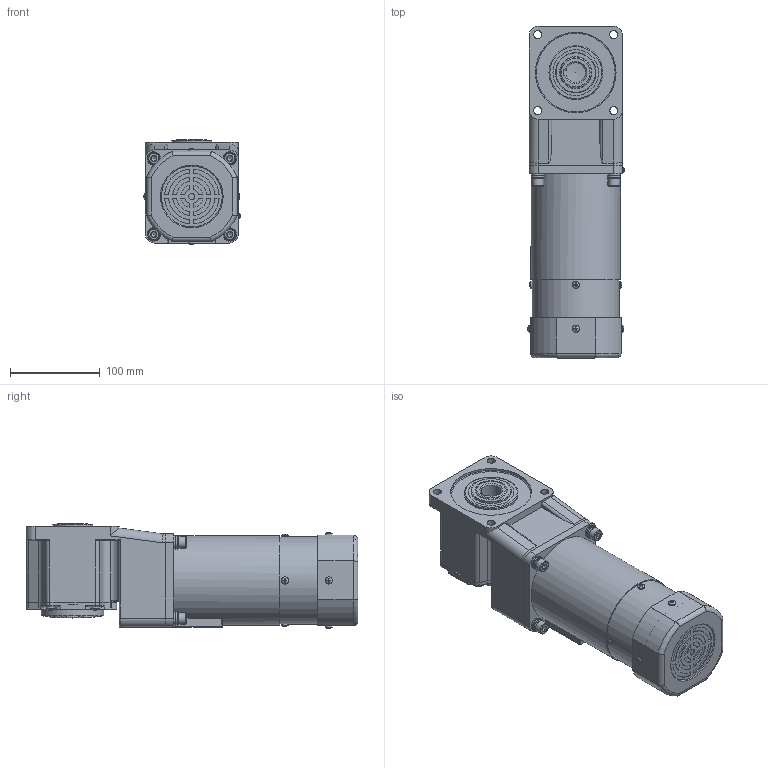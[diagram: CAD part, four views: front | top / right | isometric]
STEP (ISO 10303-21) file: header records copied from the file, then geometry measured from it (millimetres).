
FILE_DESCRIPTION(/* description */ (''),/* implementation_level */ '2;1');
FILE_NAME(/* name */ '100+直角中空-刹车调速风叶-140W.stp',/* time_stamp */ '2022-09-27T13:04:43+08:00',/* author */ (''),/* organization */ (''),/* preprocessor_version */ 'ST-DEVELOPER v16.7',/* originating_system */ 'SIEMENS PLM Software NX 1899',/* authorisation */ '');
FILE_SCHEMA (('AP203_CONFIGURATION_CONTROLLED_3D_DESIGN_OF_MECHANICAL_PARTS_AND_ASSEMBLIES_MIM_LF { 1 0 10303 403 2 1 2}'));
Length unit declared in the file: millimetre
Products named in the file (1): yf1835C809DDug8a
Bounding box: 107.66 x 370.5 x 117.08 mm (x, y, z)
Volume: 3160806 mm3; surface area: 244566.7 mm2
Topology: 15 solids, 15 shells, 875 faces, 2132 edges, 1346 vertices
Faces by surface type: plane 517, cylinder 237, torus 58, cone 48, bspline 9, sphere 6
Full cylindrical faces by diameter (mm): 3.3 x2, 3.5 x2, 4 x4, 4.8 x1, 6 x8, 6.8 x4, 7 x1, 7.76 x4, 8 x8, 8.4 x4, 9 x8, 9.5 x4, 13 x4, 14 x4, 15 x4, 45 x1, 52 x1, 52.5 x1, 60 x1, 65 x1, 65.5 x1, 70 x1, 77 x1, 90 x1, 97.5 x1, 98 x2, 100 x1
Entity records: 26747 total; most frequent: CARTESIAN_POINT 5570, DIRECTION 4205, ORIENTED_EDGE 3856, EDGE_CURVE 1928, AXIS2_PLACEMENT_3D 1597, VERTEX_POINT 1283, EDGE_LOOP 1103, LINE 1011
